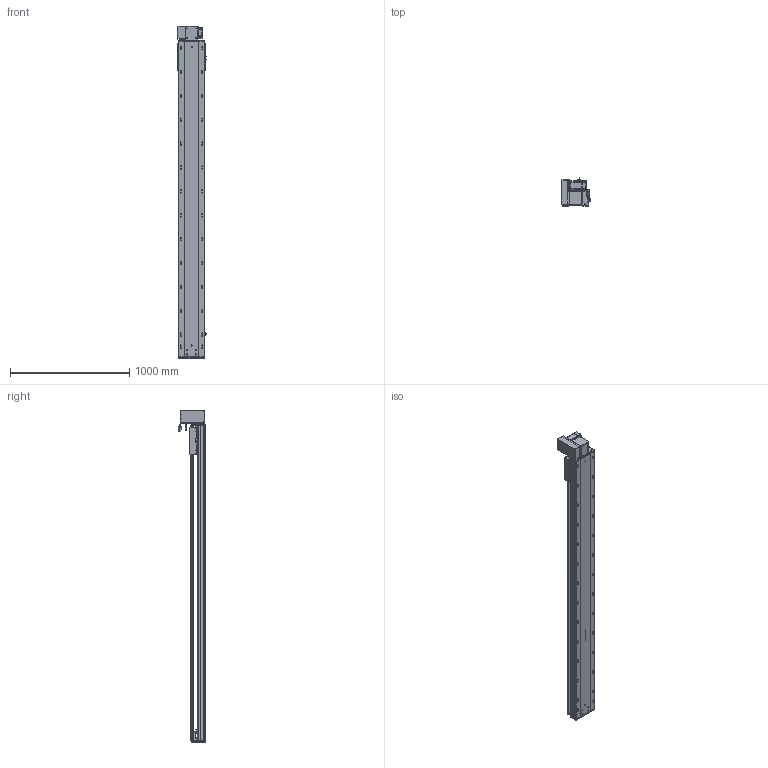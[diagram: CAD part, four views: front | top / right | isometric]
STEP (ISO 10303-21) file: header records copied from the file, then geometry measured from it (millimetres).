
FILE_DESCRIPTION (( 'STEP AP203' ), '1' );
FILE_NAME ('RY220-T-300-UL.SLDASM_2300.step', '2022-07-25T08:35:22', ( '' ), ( '' ), 'SwSTEP 2.0', 'SolidWorks 2016', '' );
FILE_SCHEMA (( 'CONFIG_CONTROL_DESIGN' ));
Length unit declared in the file: millimetre
Products named in the file (14): RY220-T-300-奻裔啣_2300; RY220-同步轮副支撑座6304×2; RY220圉猾敕々湍臏賑輸; RY220翋肮祭謫裔啣; 滅袉蝶18-15; RY220-T菁釱-300_2300; RY220-俋离672覜茼んえ; 覜茼ん672; 110A-T-肮祭謫釱傷裔; RY220-T-蛌殏萇儂假蚾啣(750W); RY220-T-300-UL.SLDASM_2300; RY220翋肮祭謫釱; RY220-T-湍謫欶(鍼踢); 怢湛750W_ECMA-CX0807ES
Assembly tree (18 placements, depth 2):
  RY220-T-300-UL.SLDASM_2300
    RY220-T菁釱-300_2300
    RY220翋肮祭謫釱
    覜茼ん672  x3
    RY220圉猾敕々湍臏賑輸
    RY220-T-300-奻裔啣_2300
    RY220-俋离672覜茼んえ
    滅袉蝶18-15  x3
    RY220翋肮祭謫裔啣  x2
    110A-T-肮祭謫釱傷裔
    怢湛750W_ECMA-CX0807ES
    RY220-T-湍謫欶(鍼踢)
    RY220-T-蛌殏萇儂假蚾啣(750W)
    RY220-同步轮副支撑座6304×2
Bounding box: 239.7 x 231.74 x 2780.5 mm (x, y, z)
Volume: 20671875.5 mm3; surface area: 6322714.6 mm2
Topology: 19 solids, 19 shells, 2890 faces, 7991 edges, 5024 vertices
Faces by surface type: cylinder 1406, plane 1069, cone 333, bspline 56, sphere 16, torus 10
Entity records: 96371 total; most frequent: CARTESIAN_POINT 27289, ORIENTED_EDGE 14298, DIRECTION 13720, EDGE_CURVE 7149, AXIS2_PLACEMENT_3D 4924, VERTEX_POINT 4648, VECTOR 3872, LINE 3872
